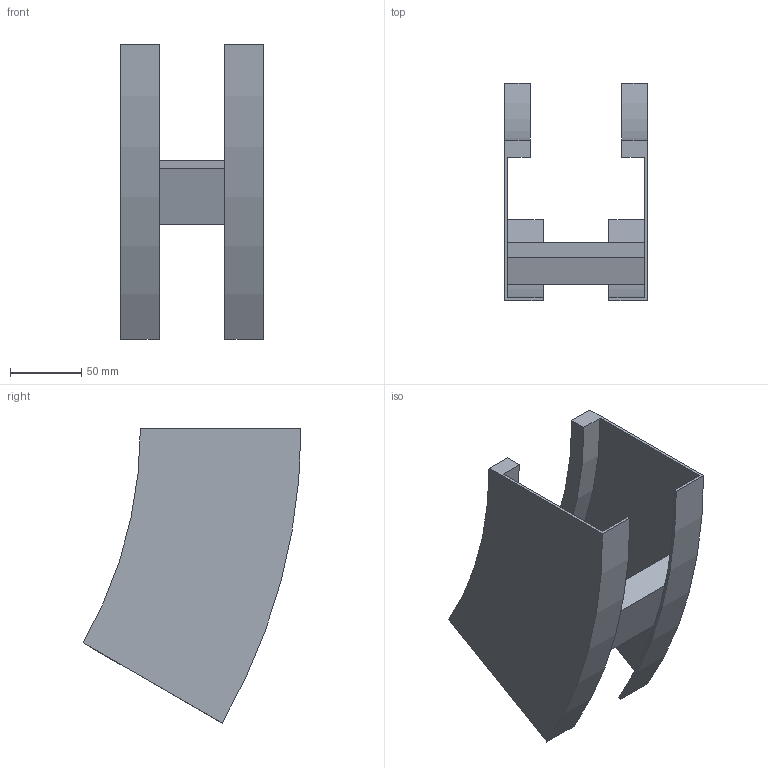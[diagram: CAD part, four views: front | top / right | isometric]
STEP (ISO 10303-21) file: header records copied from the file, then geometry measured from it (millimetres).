
FILE_DESCRIPTION (( 'STEP AP214' ), '1' );
FILE_NAME ('B2X32B3J100XX.step', '2025-03-20T10:00:13', ( '' ), ( '' ), 'SwSTEP 2.0', 'SolidWorks 2023', '' );
FILE_SCHEMA (( 'AUTOMOTIVE_DESIGN' ));
Length unit declared in the file: millimetre
Products named in the file (3): B2_LONGH.SALITA_30°_H112.5_R300; B2X32B3J100XX; TRAVERSINO_100
Assembly tree (3 placements, depth 2):
  B2X32B3J100XX
    B2_LONGH.SALITA_30°_H112.5_R300  x2
    TRAVERSINO_100
Bounding box: 100 x 152.69 x 206.25 mm (x, y, z)
Volume: 244770.5 mm3; surface area: 132335.9 mm2
Topology: 3 solids, 3 shells, 26 faces, 60 edges, 40 vertices
Faces by surface type: plane 18, cylinder 8
Entity records: 544 total; most frequent: DIRECTION 88, CARTESIAN_POINT 82, ORIENTED_EDGE 72, EDGE_CURVE 36, AXIS2_PLACEMENT_3D 30, LINE 28, VECTOR 28, VERTEX_POINT 24
